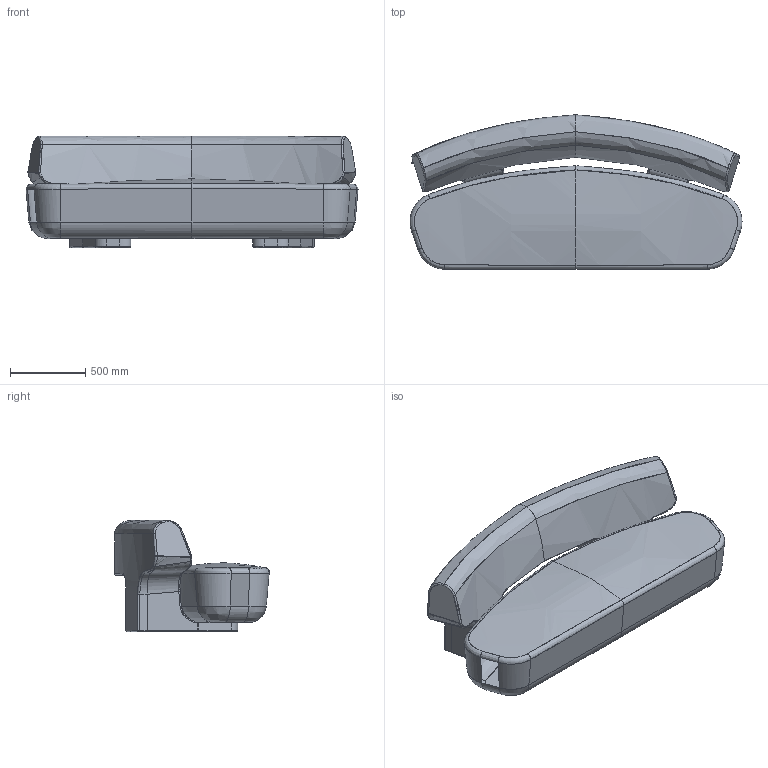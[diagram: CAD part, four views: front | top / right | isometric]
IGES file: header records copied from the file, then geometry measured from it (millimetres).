
Global section: file name: C:\Users\market02\Desktop\RYAN\3D\LITHO\FLITHCB220_Canape Banquette_Armless sofa_Litho\exportation\FLITHCB220_Canape banquette_Armeless sofa_Litho.igs; native system: Rhinoceros ( Dec 14 2021 ); preprocessor: Trout Lake IGES 012 Dec 14 2021; date: 220316.154637; units: millimetre
Bounding box: 2203.98 x 1025.41 x 740 mm (x, y, z)
Surface area: 7764057.7 mm2 (no closed solid volume)
Topology: 0 solids, 0 shells, 168 faces, 2603 edges, 2597 vertices
Faces by surface type: bspline 168
